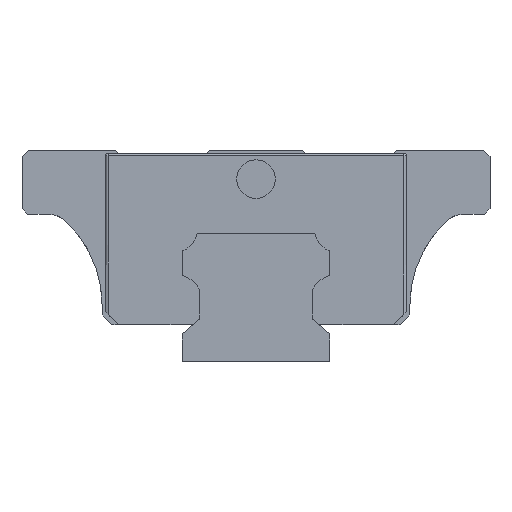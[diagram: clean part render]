
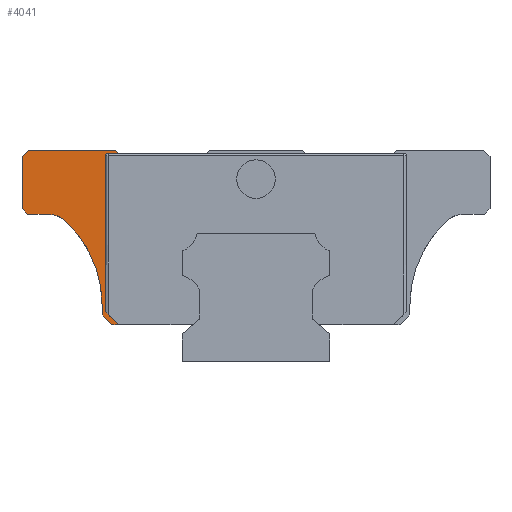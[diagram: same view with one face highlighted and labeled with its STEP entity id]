
A CAD part, left-side view. The second image highlights one B-rep face of the part: STEP entity #4041.
In plain terms, the highlighted planar face has unit normal (-1, 0, 0).
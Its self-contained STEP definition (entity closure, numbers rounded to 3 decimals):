
#24 = VERTEX_POINT ( 'NONE', #2451 ) ;
#193 = CARTESIAN_POINT ( 'NONE',  ( -29.5, 24., 8.8 ) ) ;
#259 = CARTESIAN_POINT ( 'NONE',  ( -29.5, 36.5, 23.9 ) ) ;
#292 = CARTESIAN_POINT ( 'NONE',  ( -29.5, -10.009, 5.8 ) ) ;
#376 = CIRCLE ( 'NONE', #7451, 4. ) ;
#505 = LINE ( 'NONE', #2958, #5007 ) ;
#597 = DIRECTION ( 'NONE',  ( 0., -1., 0. ) ) ;
#617 = EDGE_CURVE ( 'NONE', #3501, #6350, #7687, .T. ) ;
#631 = DIRECTION ( 'NONE',  ( 1., 0., 0. ) ) ;
#633 = CARTESIAN_POINT ( 'NONE',  ( -29.5, 23.449, 7.8 ) ) ;
#730 = CARTESIAN_POINT ( 'NONE',  ( -29.5, 36.5, 32.05 ) ) ;
#775 = ORIENTED_EDGE ( 'NONE', *, *, #953, .T. ) ;
#786 = PLANE ( 'NONE',  #2795 ) ;
#864 = LINE ( 'NONE', #259, #6427 ) ;
#905 = VECTOR ( 'NONE', #7883, 1000. ) ;
#947 = EDGE_CURVE ( 'NONE', #5063, #2565, #6189, .T. ) ;
#953 = EDGE_CURVE ( 'NONE', #7767, #1583, #6027, .T. ) ;
#1154 = CARTESIAN_POINT ( 'NONE',  ( -29.5, 32.41, 19. ) ) ;
#1257 = VECTOR ( 'NONE', #2861, 1000. ) ;
#1319 = DIRECTION ( 'NONE',  ( 0., -0.707, -0.707 ) ) ;
#1434 = DIRECTION ( 'NONE',  ( 0., 0., 1. ) ) ;
#1512 = EDGE_CURVE ( 'NONE', #2476, #7767, #864, .T. ) ;
#1583 = VERTEX_POINT ( 'NONE', #6875 ) ;
#1590 = ORIENTED_EDGE ( 'NONE', *, *, #617, .T. ) ;
#1626 = CARTESIAN_POINT ( 'NONE',  ( -29.5, 36.5, 23.9 ) ) ;
#1686 = VERTEX_POINT ( 'NONE', #4546 ) ;
#1703 = CARTESIAN_POINT ( 'NONE',  ( -29.5, 23.449, 31.75 ) ) ;
#1922 = VECTOR ( 'NONE', #5470, 1000. ) ;
#2181 = EDGE_LOOP ( 'NONE', ( #5997, #775, #3348, #4043, #4161, #2446, #6032, #4795, #3373, #6139, #7219, #1590, #3929, #4030, #4366 ) ) ;
#2262 = LINE ( 'NONE', #4718, #1257 ) ;
#2286 = VERTEX_POINT ( 'NONE', #5054 ) ;
#2446 = ORIENTED_EDGE ( 'NONE', *, *, #4356, .T. ) ;
#2451 = CARTESIAN_POINT ( 'NONE',  ( -29.5, 22.5, 5.8 ) ) ;
#2476 = VERTEX_POINT ( 'NONE', #1626 ) ;
#2484 = VERTEX_POINT ( 'NONE', #7326 ) ;
#2547 = CIRCLE ( 'NONE', #5225, 18. ) ;
#2565 = VERTEX_POINT ( 'NONE', #730 ) ;
#2566 = CARTESIAN_POINT ( 'NONE',  ( -29.5, 21.48, 32.5 ) ) ;
#2768 = DIRECTION ( 'NONE',  ( 0., 0.643, 0.766 ) ) ;
#2795 = AXIS2_PLACEMENT_3D ( 'NONE', #292, #4523, #1434 ) ;
#2799 = LINE ( 'NONE', #5414, #3934 ) ;
#2861 = DIRECTION ( 'NONE',  ( 0., 1., 0. ) ) ;
#2919 = VERTEX_POINT ( 'NONE', #4097 ) ;
#2958 = CARTESIAN_POINT ( 'NONE',  ( -29.5, 21.9, 33. ) ) ;
#3077 = DIRECTION ( 'NONE',  ( 0., 0., 1. ) ) ;
#3114 = EDGE_CURVE ( 'NONE', #2286, #4833, #5175, .T. ) ;
#3228 = EDGE_CURVE ( 'NONE', #24, #2484, #2799, .T. ) ;
#3317 = DIRECTION ( 'NONE',  ( 0., -0.707, -0.707 ) ) ;
#3348 = ORIENTED_EDGE ( 'NONE', *, *, #5138, .T. ) ;
#3373 = ORIENTED_EDGE ( 'NONE', *, *, #4208, .F. ) ;
#3378 = CARTESIAN_POINT ( 'NONE',  ( -29.5, 21.376, 32.375 ) ) ;
#3479 = DIRECTION ( 'NONE',  ( 1., 0., 0. ) ) ;
#3501 = VERTEX_POINT ( 'NONE', #2566 ) ;
#3578 = VECTOR ( 'NONE', #5306, 1000. ) ;
#3690 = CARTESIAN_POINT ( 'NONE',  ( -29.5, 35.55, 33. ) ) ;
#3929 = ORIENTED_EDGE ( 'NONE', *, *, #6315, .T. ) ;
#3934 = VECTOR ( 'NONE', #7792, 1000. ) ;
#4030 = ORIENTED_EDGE ( 'NONE', *, *, #947, .T. ) ;
#4041 = ADVANCED_FACE ( 'NONE', ( #5760 ), #786, .T. ) ;
#4043 = ORIENTED_EDGE ( 'NONE', *, *, #5043, .T. ) ;
#4097 = CARTESIAN_POINT ( 'NONE',  ( -29.5, 23.449, 32.135 ) ) ;
#4161 = ORIENTED_EDGE ( 'NONE', *, *, #3114, .T. ) ;
#4203 = DIRECTION ( 'NONE',  ( 0., 0., 1. ) ) ;
#4208 = EDGE_CURVE ( 'NONE', #2919, #1686, #5921, .T. ) ;
#4317 = CARTESIAN_POINT ( 'NONE',  ( -29.5, 24., 7.3 ) ) ;
#4331 = LINE ( 'NONE', #633, #7668 ) ;
#4356 = EDGE_CURVE ( 'NONE', #4833, #24, #7897, .T. ) ;
#4366 = ORIENTED_EDGE ( 'NONE', *, *, #4844, .T. ) ;
#4379 = CARTESIAN_POINT ( 'NONE',  ( -29.5, 24., 7.3 ) ) ;
#4523 = DIRECTION ( 'NONE',  ( -1., 0., 0. ) ) ;
#4546 = CARTESIAN_POINT ( 'NONE',  ( -29.5, 23.449, 7.8 ) ) ;
#4689 = CARTESIAN_POINT ( 'NONE',  ( -29.5, 21.9, 33. ) ) ;
#4713 = VERTEX_POINT ( 'NONE', #4980 ) ;
#4718 = CARTESIAN_POINT ( 'NONE',  ( -29.5, -24.589, 32.5 ) ) ;
#4726 = VERTEX_POINT ( 'NONE', #7965 ) ;
#4766 = CARTESIAN_POINT ( 'NONE',  ( -29.5, 35.6, 23. ) ) ;
#4795 = ORIENTED_EDGE ( 'NONE', *, *, #7593, .F. ) ;
#4833 = VERTEX_POINT ( 'NONE', #4379 ) ;
#4844 = EDGE_CURVE ( 'NONE', #2565, #2476, #6220, .T. ) ;
#4894 = CARTESIAN_POINT ( 'NONE',  ( -29.5, 23.084, 32.135 ) ) ;
#4904 = DIRECTION ( 'NONE',  ( 0., 0., -1. ) ) ;
#4980 = CARTESIAN_POINT ( 'NONE',  ( -29.5, 29.671, 21.914 ) ) ;
#4984 = VECTOR ( 'NONE', #4904, 1000. ) ;
#5007 = VECTOR ( 'NONE', #5407, 1000. ) ;
#5043 = EDGE_CURVE ( 'NONE', #4713, #2286, #2547, .T. ) ;
#5054 = CARTESIAN_POINT ( 'NONE',  ( -29.5, 24., 8.8 ) ) ;
#5063 = VERTEX_POINT ( 'NONE', #5890 ) ;
#5138 = EDGE_CURVE ( 'NONE', #1583, #4713, #376, .T. ) ;
#5175 = LINE ( 'NONE', #193, #5848 ) ;
#5225 = AXIS2_PLACEMENT_3D ( 'NONE', #7222, #7180, #4203 ) ;
#5285 = DIRECTION ( 'NONE',  ( 0., 0., 1. ) ) ;
#5306 = DIRECTION ( 'NONE',  ( 0., 0., -1. ) ) ;
#5407 = DIRECTION ( 'NONE',  ( 0., 1., 0. ) ) ;
#5414 = CARTESIAN_POINT ( 'NONE',  ( -29.5, 24.236, 5.8 ) ) ;
#5470 = DIRECTION ( 'NONE',  ( 0., -0.707, -0.707 ) ) ;
#5573 = EDGE_CURVE ( 'NONE', #2919, #4726, #6546, .T. ) ;
#5703 = DIRECTION ( 'NONE',  ( 0., 0., -1. ) ) ;
#5760 = FACE_OUTER_BOUND ( 'NONE', #2181, .T. ) ;
#5848 = VECTOR ( 'NONE', #5703, 1000. ) ;
#5890 = CARTESIAN_POINT ( 'NONE',  ( -29.5, 35.55, 33. ) ) ;
#5921 = LINE ( 'NONE', #1703, #3578 ) ;
#5997 = ORIENTED_EDGE ( 'NONE', *, *, #1512, .T. ) ;
#6027 = LINE ( 'NONE', #7389, #7196 ) ;
#6032 = ORIENTED_EDGE ( 'NONE', *, *, #3228, .T. ) ;
#6139 = ORIENTED_EDGE ( 'NONE', *, *, #5573, .T. ) ;
#6189 = LINE ( 'NONE', #3690, #905 ) ;
#6220 = LINE ( 'NONE', #6740, #4984 ) ;
#6228 = VECTOR ( 'NONE', #2768, 1000. ) ;
#6315 = EDGE_CURVE ( 'NONE', #6350, #5063, #505, .T. ) ;
#6350 = VERTEX_POINT ( 'NONE', #4689 ) ;
#6427 = VECTOR ( 'NONE', #3317, 1000. ) ;
#6546 = CIRCLE ( 'NONE', #7582, 0.365 ) ;
#6740 = CARTESIAN_POINT ( 'NONE',  ( -29.5, 36.5, 33. ) ) ;
#6753 = EDGE_CURVE ( 'NONE', #3501, #4726, #2262, .T. ) ;
#6875 = CARTESIAN_POINT ( 'NONE',  ( -29.5, 32.41, 23. ) ) ;
#7180 = DIRECTION ( 'NONE',  ( 1., 0., 0. ) ) ;
#7196 = VECTOR ( 'NONE', #597, 1000. ) ;
#7219 = ORIENTED_EDGE ( 'NONE', *, *, #6753, .F. ) ;
#7222 = CARTESIAN_POINT ( 'NONE',  ( -29.5, 42., 8.8 ) ) ;
#7326 = CARTESIAN_POINT ( 'NONE',  ( -29.5, 21.449, 5.8 ) ) ;
#7389 = CARTESIAN_POINT ( 'NONE',  ( -29.5, 35.6, 23. ) ) ;
#7451 = AXIS2_PLACEMENT_3D ( 'NONE', #1154, #3479, #5285 ) ;
#7582 = AXIS2_PLACEMENT_3D ( 'NONE', #4894, #631, #3077 ) ;
#7593 = EDGE_CURVE ( 'NONE', #1686, #2484, #4331, .T. ) ;
#7668 = VECTOR ( 'NONE', #1319, 1000. ) ;
#7687 = LINE ( 'NONE', #3378, #6228 ) ;
#7767 = VERTEX_POINT ( 'NONE', #4766 ) ;
#7792 = DIRECTION ( 'NONE',  ( 0., -1., 0. ) ) ;
#7883 = DIRECTION ( 'NONE',  ( 0., 0.707, -0.707 ) ) ;
#7897 = LINE ( 'NONE', #4317, #1922 ) ;
#7965 = CARTESIAN_POINT ( 'NONE',  ( -29.5, 23.084, 32.5 ) ) ;
